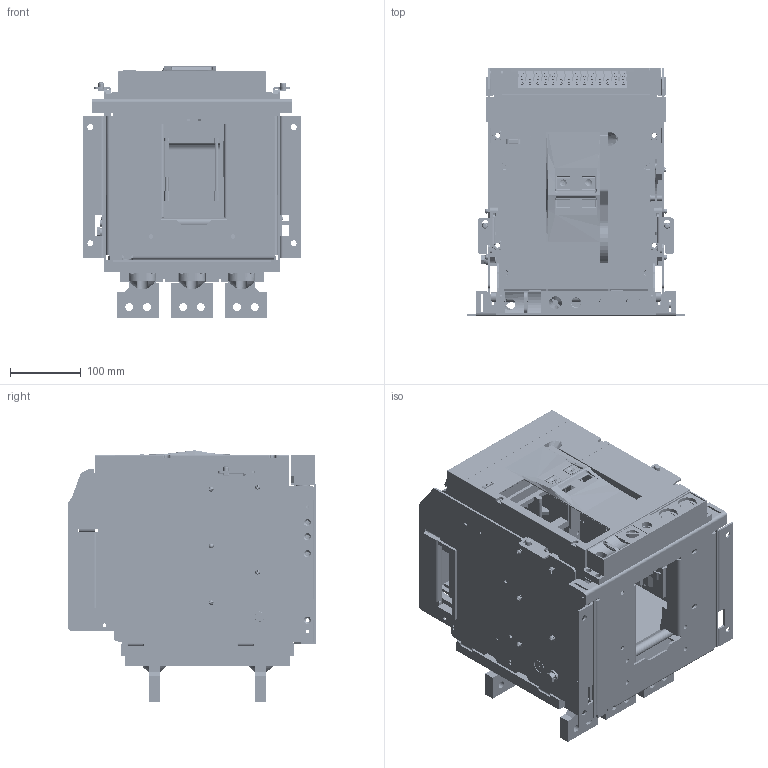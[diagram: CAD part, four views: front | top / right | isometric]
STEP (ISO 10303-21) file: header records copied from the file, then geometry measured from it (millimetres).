
FILE_DESCRIPTION((''),'2;1');
FILE_NAME('NA8G-1600-1250-DO-3P-H_ASM','2019-05-21T14:25:54',('lcc'),(''),'CREO PARAMETRIC BY PTC INC, 2018020','CREO PARAMETRIC BY PTC INC, 2018020','');
FILE_SCHEMA(('CONFIG_CONTROL_DESIGN','SHAPE_APPEARANCE_LAYERS_GROUPS'));
Products named in the file (56): 8-024-504; 8-300-164; 8-141-125; 8-860-349; 8-441-081; 8-200-099; 8-236-064; 5-203-058_ASM; 8-145-063; 8-211-092; 5-024-172_ASM; 8-050-244; 8-960-058; 8-960-056; 8-960-057; 8-960-060; 8-960-059; 8-127-020; 8-125-057; 8-123-120; 8-261-001; 8-125-001; 8-210-176; 5-124-010_ASM; 8-233-301; GBT97_1-4; GBT93-4; GBT818-M4X10; GBT845-ST4_2X9_5C; GBT6170-M8; 5-050-095_ASM; 8-050-243; 8-261-002; 8-125-002; 5-124-011_ASM; GBT97_1-8; GBT93-8; GBT5783-M8X16; 5-050-096_ASM; 8-300-166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
Assembly tree (108 placements, depth 4):
  NA8G-1600-1250-DO-3P-H_ASM
    5-024-172_ASM
      8-024-504
      8-300-164
      8-141-125
      8-860-349
      8-441-081
      5-203-058_ASM
        8-200-099
        8-236-064  x2
      8-145-063  x2
      8-211-092
    5-050-095_ASM
      8-050-244
      8-960-058
      8-960-056
      8-960-057
      8-960-060
      8-960-059
      8-127-020
      8-125-057
      8-123-120
      5-124-010_ASM
        8-261-001
        8-125-001
        8-210-176
      8-233-301
      GBT97_1-4  x5
      GBT93-4  x5
      GBT818-M4X10  x5
      GBT845-ST4_2X9_5C
      GBT6170-M8  x2
    5-050-096_ASM
      8-050-243
      8-125-057
      8-123-120
      5-124-011_ASM
        8-261-002
        8-125-002
        8-210-176
      GBT6170-M8  x2
      GBT97_1-4  x5
      GBT93-4  x5
      GBT818-M4X10  x5
      GBT97_1-8  x2
      GBT93-8
      GBT5783-M8X16
    8-300-166
    8-015-021
    8ZTD-043-780
    8ZTD-043-781
    8-300-162-2
    8-253-348
    8-253-349
    8-253-309
    5-235-147
    1600-DIJIA-3P
    8ZTD-580-199-3  x2
    8ZTD-580-200-3  x4
    1600-DUANZI-CTS_ASM
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Bounding box: 308 x 351 x 355 mm (x, y, z)
Volume: 6807480.8 mm3; surface area: 1916393.4 mm2
Topology: 101 solids, 147 shells, 7118 faces, 19488 edges, 12820 vertices
Faces by surface type: plane 5210, cylinder 1645, cone 102, bspline 74, torus 54, sphere 32, extrusion 1
Entity records: 176244 total; most frequent: CARTESIAN_POINT 27094, ORIENTED_EDGE 24378, DIRECTION 23973, EDGE_CURVE 12200, PRESENTATION_STYLE_ASSIGNMENT 10160, STYLED_ITEM 10120, CURVE_STYLE 9995, VECTOR 9389
